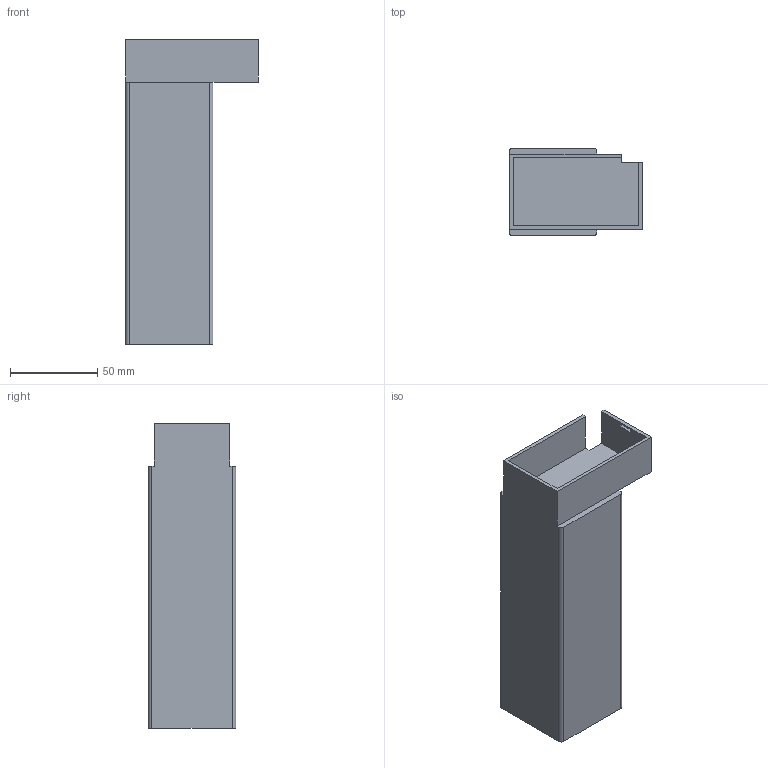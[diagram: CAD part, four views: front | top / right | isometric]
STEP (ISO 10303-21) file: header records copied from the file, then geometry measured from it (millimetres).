
FILE_DESCRIPTION(/* description */ ('STEP AP242 Edition 2','CAx-IF Rec.Pracs.---Representation and Presentation of Product Manufacturing Information (PMI)---4.0---2014-10-13','CAx-IF Rec.Pracs.---3D Tessellated Geometry---0.4---2014-09-14','2;1','CAx-IF Rec.Pracs.---User Defined Attributes---1.5---2016-08-15'),/* implementation_level */ '2;1');
FILE_NAME(/* name */ 'Electronics-Components - FirstArmSegment+BatteryCase',/* time_stamp */ '2026-04-22T00:02:36Z',/* author */ (''),/* organization */ (''),/* preprocessor_version */ 'ST-DEVELOPER v20',/* originating_system */ 'ONSHAPE BY PTC INC, 1.213',/* authorisation */ ' ');
FILE_SCHEMA (('AP242_MANAGED_MODEL_BASED_3D_ENGINEERING_MIM_LF { 1 0 10303 442 3 1 4 }'));
Length unit declared in the file: metre
Products named in the file (1): FirstArmSegment+BatteryCase
Bounding box: 76 x 50 x 174.3 mm (x, y, z)
Volume: 389198.3 mm3; surface area: 48622.4 mm2
Topology: 1 solids, 1 shells, 43 faces, 97 edges, 64 vertices
Faces by surface type: plane 31, cylinder 12
Full cylindrical faces by diameter (mm): 2.7 x8
Entity records: 1185 total; most frequent: DIRECTION 201, CARTESIAN_POINT 197, ORIENTED_EDGE 178, EDGE_CURVE 89, AXIS2_PLACEMENT_3D 68, LINE 65, VECTOR 65, VERTEX_POINT 64
